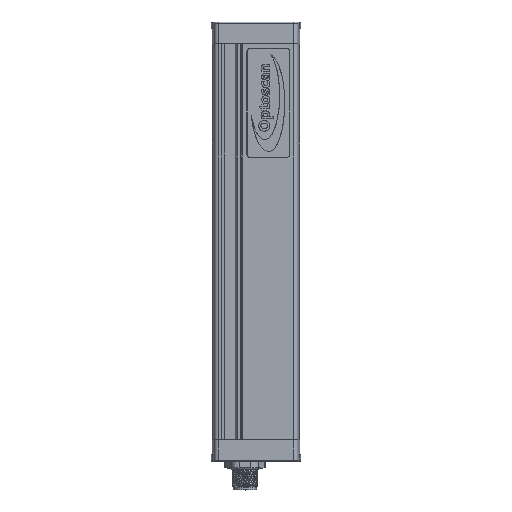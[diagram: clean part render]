
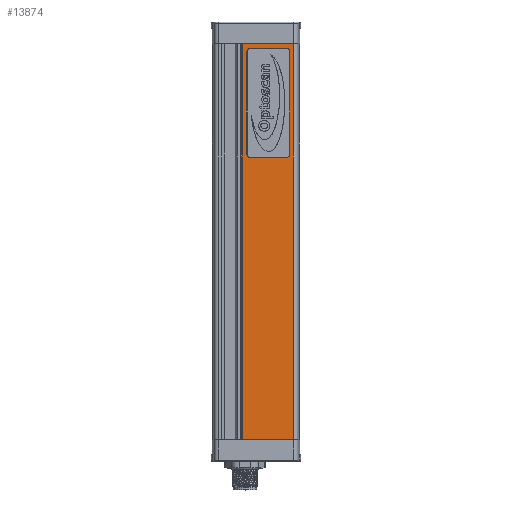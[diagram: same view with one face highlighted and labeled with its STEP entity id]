
A CAD part, top view. The second image highlights one B-rep face of the part: STEP entity #13874.
In plain terms, the highlighted planar face has unit normal (0, 0, 1).
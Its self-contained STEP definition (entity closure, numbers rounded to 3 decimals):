
#178=FACE_BOUND('',#2285,.T.);
#461=CIRCLE('',#14585,1.45);
#467=CIRCLE('',#14593,1.45);
#471=CIRCLE('',#14599,1.45);
#475=CIRCLE('',#14605,1.45);
#1052=PLANE('',#14718);
#1510=FACE_OUTER_BOUND('',#2284,.T.);
#2284=EDGE_LOOP('',(#9922,#9923,#9924,#9925));
#2285=EDGE_LOOP('',(#9926,#9927,#9928,#9929,#9930,#9931,#9932,#9933));
#3345=LINE('',#20295,#4416);
#3347=LINE('',#20307,#4418);
#3349=LINE('',#20319,#4420);
#3351=LINE('',#20328,#4422);
#3562=LINE('',#22495,#4633);
#3563=LINE('',#22497,#4634);
#3564=LINE('',#22499,#4635);
#3565=LINE('',#22500,#4636);
#4416=VECTOR('',#16169,10.);
#4418=VECTOR('',#16183,10.);
#4420=VECTOR('',#16197,10.);
#4422=VECTOR('',#16209,10.);
#4633=VECTOR('',#16644,10.);
#4634=VECTOR('',#16645,10.);
#4635=VECTOR('',#16646,10.);
#4636=VECTOR('',#16647,10.);
#5576=VERTEX_POINT('',#20283);
#5577=VERTEX_POINT('',#20285);
#5579=VERTEX_POINT('',#20291);
#5581=VERTEX_POINT('',#20297);
#5583=VERTEX_POINT('',#20303);
#5585=VERTEX_POINT('',#20309);
#5587=VERTEX_POINT('',#20315);
#5589=VERTEX_POINT('',#20321);
#5831=VERTEX_POINT('',#22493);
#5832=VERTEX_POINT('',#22494);
#5833=VERTEX_POINT('',#22496);
#5834=VERTEX_POINT('',#22498);
#6939=EDGE_CURVE('',#5576,#5577,#461,.T.);
#6944=EDGE_CURVE('',#5577,#5579,#3345,.T.);
#6947=EDGE_CURVE('',#5579,#5581,#467,.T.);
#6950=EDGE_CURVE('',#5581,#5583,#3347,.T.);
#6953=EDGE_CURVE('',#5583,#5585,#471,.T.);
#6956=EDGE_CURVE('',#5585,#5587,#3349,.T.);
#6959=EDGE_CURVE('',#5587,#5589,#475,.T.);
#6961=EDGE_CURVE('',#5589,#5576,#3351,.T.);
#7330=EDGE_CURVE('',#5831,#5832,#3562,.T.);
#7331=EDGE_CURVE('',#5832,#5833,#3563,.T.);
#7332=EDGE_CURVE('',#5834,#5833,#3564,.T.);
#7333=EDGE_CURVE('',#5831,#5834,#3565,.T.);
#9922=ORIENTED_EDGE('',*,*,#7330,.T.);
#9923=ORIENTED_EDGE('',*,*,#7331,.T.);
#9924=ORIENTED_EDGE('',*,*,#7332,.F.);
#9925=ORIENTED_EDGE('',*,*,#7333,.F.);
#9926=ORIENTED_EDGE('',*,*,#6939,.F.);
#9927=ORIENTED_EDGE('',*,*,#6961,.F.);
#9928=ORIENTED_EDGE('',*,*,#6959,.F.);
#9929=ORIENTED_EDGE('',*,*,#6956,.F.);
#9930=ORIENTED_EDGE('',*,*,#6953,.F.);
#9931=ORIENTED_EDGE('',*,*,#6950,.F.);
#9932=ORIENTED_EDGE('',*,*,#6947,.F.);
#9933=ORIENTED_EDGE('',*,*,#6944,.F.);
#13874=ADVANCED_FACE('',(#1510,#178),#1052,.T.);
#14585=AXIS2_PLACEMENT_3D('',#20286,#16158,#16159);
#14593=AXIS2_PLACEMENT_3D('',#20301,#16176,#16177);
#14599=AXIS2_PLACEMENT_3D('',#20313,#16190,#16191);
#14605=AXIS2_PLACEMENT_3D('',#20325,#16204,#16205);
#14718=AXIS2_PLACEMENT_3D('',#22492,#16642,#16643);
#16158=DIRECTION('center_axis',(0.,0.,
1.));
#16159=DIRECTION('ref_axis',(1.,0.,0.));
#16169=DIRECTION('',(1.,0.,0.));
#16176=DIRECTION('center_axis',(0.,0.,
1.));
#16177=DIRECTION('ref_axis',(1.,0.,0.));
#16183=DIRECTION('',(0.,1.,0.));
#16190=DIRECTION('center_axis',(0.,0.,
1.));
#16191=DIRECTION('ref_axis',(1.,0.,0.));
#16197=DIRECTION('',(-1.,0.,0.));
#16204=DIRECTION('center_axis',(0.,0.,
1.));
#16205=DIRECTION('ref_axis',(1.,0.,0.));
#16209=DIRECTION('',(0.,-1.,0.));
#16642=DIRECTION('center_axis',(0.,0.,
1.));
#16643=DIRECTION('ref_axis',(1.,0.,0.));
#16644=DIRECTION('',(1.,0.,0.));
#16645=DIRECTION('',(0.,1.,0.));
#16646=DIRECTION('',(1.,0.,0.));
#16647=DIRECTION('',(0.,1.,0.));
#20283=CARTESIAN_POINT('',(-42.765,129.7,28.879));
#20285=CARTESIAN_POINT('',(-41.315,128.25,28.879));
#20286=CARTESIAN_POINT('Origin',(-41.315,129.7,28.879));
#20291=CARTESIAN_POINT('',(-24.915,128.25,28.879));
#20295=CARTESIAN_POINT('',(-37.215,128.25,28.879));
#20297=CARTESIAN_POINT('',(-23.465,129.7,28.879));
#20301=CARTESIAN_POINT('Origin',(-24.915,129.7,28.879));
#20303=CARTESIAN_POINT('',(-23.465,176.5,28.879));
#20307=CARTESIAN_POINT('',(-23.465,141.4,28.879));
#20309=CARTESIAN_POINT('',(-24.915,177.95,28.879));
#20313=CARTESIAN_POINT('Origin',(-24.915,176.5,28.879));
#20315=CARTESIAN_POINT('',(-41.315,177.95,28.879));
#20319=CARTESIAN_POINT('',(-29.015,177.95,28.879));
#20321=CARTESIAN_POINT('',(-42.765,176.5,28.879));
#20325=CARTESIAN_POINT('Origin',(-41.315,176.5,28.879));
#20328=CARTESIAN_POINT('',(-42.765,164.8,28.879));
#22492=CARTESIAN_POINT('Origin',(-44.965,0.,
28.879));
#22493=CARTESIAN_POINT('',(-44.965,0.,28.879));
#22494=CARTESIAN_POINT('',(-21.664,0.,28.879));
#22495=CARTESIAN_POINT('',(-44.965,0.,28.879));
#22496=CARTESIAN_POINT('',(-21.664,180.,28.879));
#22497=CARTESIAN_POINT('',(-21.664,0.,28.879));
#22498=CARTESIAN_POINT('',(-44.965,180.,28.879));
#22499=CARTESIAN_POINT('',(-44.965,180.,28.879));
#22500=CARTESIAN_POINT('',(-44.965,0.,28.879));
